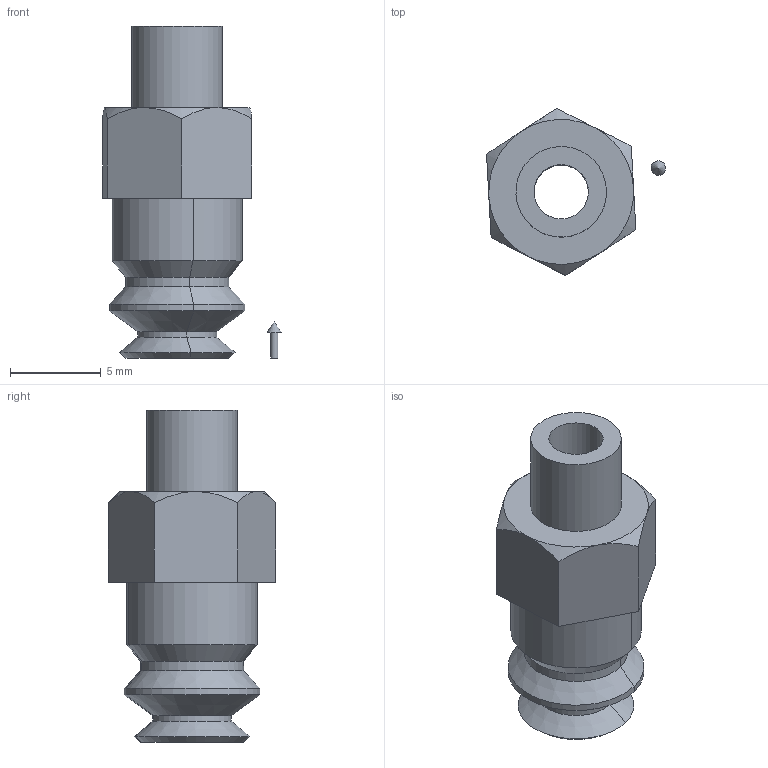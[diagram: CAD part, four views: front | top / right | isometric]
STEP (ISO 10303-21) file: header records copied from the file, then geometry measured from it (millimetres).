
FILE_DESCRIPTION(('STEP AP214'),'1');
FILE_NAME('KIT.08.31.D06.14.stp','2019-05-28T06:44:05',(' '),(' '),'Spatial InterOp 3D',' ',' ');
FILE_SCHEMA(('AUTOMOTIVE_DESIGN { 1 0 10303 214 1 1 1 1 }'));
Length unit declared in the file: millimetre
Products named in the file (5): CA.08.31.012; KIT.08.31.D06.14; CA.08.09.014
Assembly tree (4 placements, depth 3):
  KIT.08.31.D06.14
    (unnamed)
      CA.08.31.012
      CA.08.31.012
    CA.08.09.014
Bounding box: 9.88 x 9.22 x 18.32 mm (x, y, z)
Volume: 547.4 mm3; surface area: 915.2 mm2
Topology: 3 solids, 3 shells, 54 faces, 108 edges, 65 vertices
Faces by surface type: cone 20, plane 17, cylinder 17
Full cylindrical faces by diameter (mm): 0.4 x1, 3 x1, 3.9 x1, 5 x1, 6 x1
Entity records: 1987 total; most frequent: CARTESIAN_POINT 341, DIRECTION 256, ORIENTED_EDGE 196, AXIS2_PLACEMENT_3D 110, EDGE_CURVE 98, EDGE_LOOP 70, VERTEX_POINT 63, FACE_OUTER_BOUND 59
